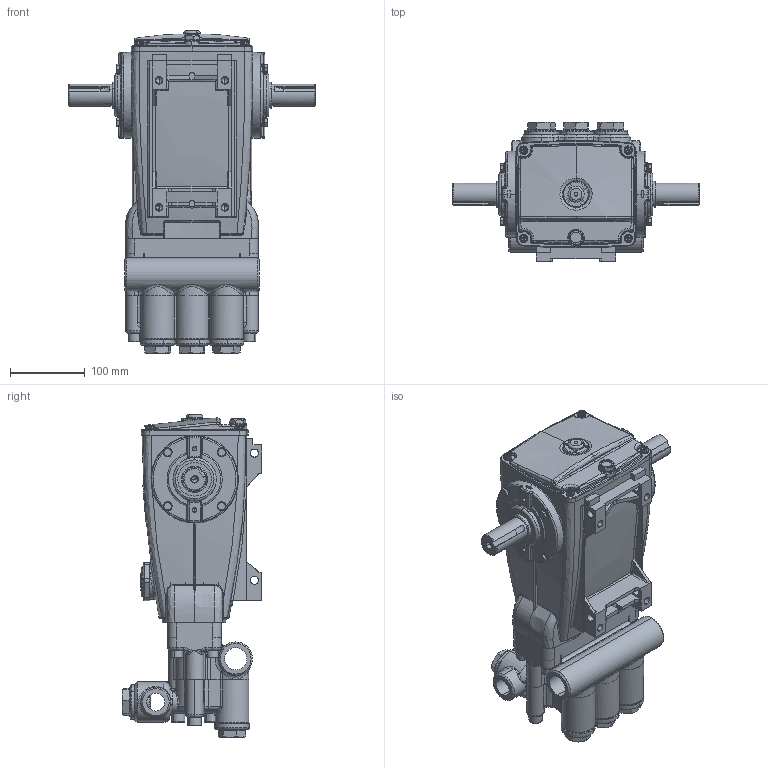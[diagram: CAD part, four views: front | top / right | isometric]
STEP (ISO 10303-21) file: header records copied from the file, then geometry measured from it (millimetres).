
FILE_DESCRIPTION (( 'STEP AP214' ), '1' );
FILE_NAME ('1530.STEP', '2012-12-17T13:17:16', ( '' ), ( '' ), 'SwSTEP 2.0', 'SolidWorks 2012', '' );
FILE_SCHEMA (( 'AUTOMOTIVE_DESIGN' ));
Length unit declared in the file: millimetre
Products named in the file (1): 1530
Bounding box: 330 x 187 x 431.3 mm (x, y, z)
Volume: 5024767.8 mm3; surface area: 801428.2 mm2
Topology: 1 solids, 42 shells, 4194 faces, 10732 edges, 6756 vertices
Faces by surface type: plane 1655, cylinder 1090, bspline 676, torus 482, cone 261, sphere 30
Entity records: 205174 total; most frequent: CARTESIAN_POINT 75271, ORIENTED_EDGE 21250, DIRECTION 18612, EDGE_CURVE 10625, AXIS2_PLACEMENT_3D 6800, VERTEX_POINT 6744, LINE 5012, VECTOR 5012
